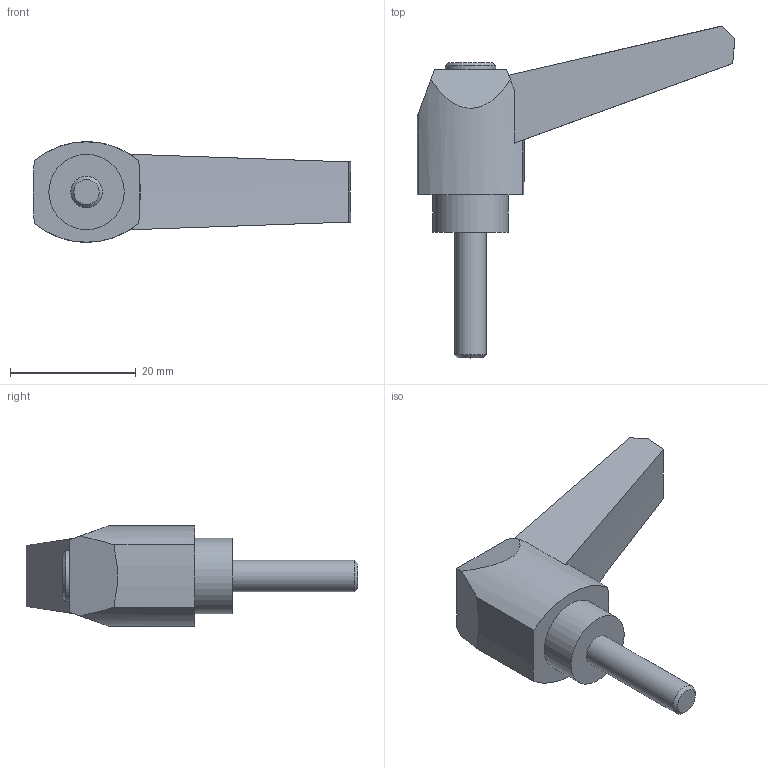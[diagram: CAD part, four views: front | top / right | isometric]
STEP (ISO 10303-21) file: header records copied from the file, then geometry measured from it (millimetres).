
FILE_DESCRIPTION( ( 'STEP AP203' ), '1' );
FILE_NAME( 'C:/Temp/Ganter_Step_05_03_2020/data/2_1/gn_500/gn_500_ms/Adjustable hand lever GN 500-42-M5-20-SW.stp', '2020-03-05T11:26:31', ( 'License CC BY-ND 4.0' ), ( 'CADENAS' ), ' ', 'PARTsolutions', ' ' );
FILE_SCHEMA( ( 'CONFIG_CONTROL_DESIGN' ) );
Length unit declared in the file: millimetre
Products named in the file (1): _Adjustable hand lever GN 500-42-M5-20-SW
Bounding box: 50.59 x 52.85 x 16 mm (x, y, z)
Volume: 8708.8 mm3; surface area: 3329.2 mm2
Topology: 1 solids, 1 shells, 24 faces, 56 edges, 37 vertices
Faces by surface type: plane 11, cylinder 7, cone 6
Full cylindrical faces by diameter (mm): 5 x1, 8 x1, 12 x1
Entity records: 708 total; most frequent: CARTESIAN_POINT 123, DIRECTION 118, ORIENTED_EDGE 100, EDGE_CURVE 50, AXIS2_PLACEMENT_3D 47, VERTEX_POINT 36, EDGE_LOOP 32, FACE_OUTER_BOUND 27
